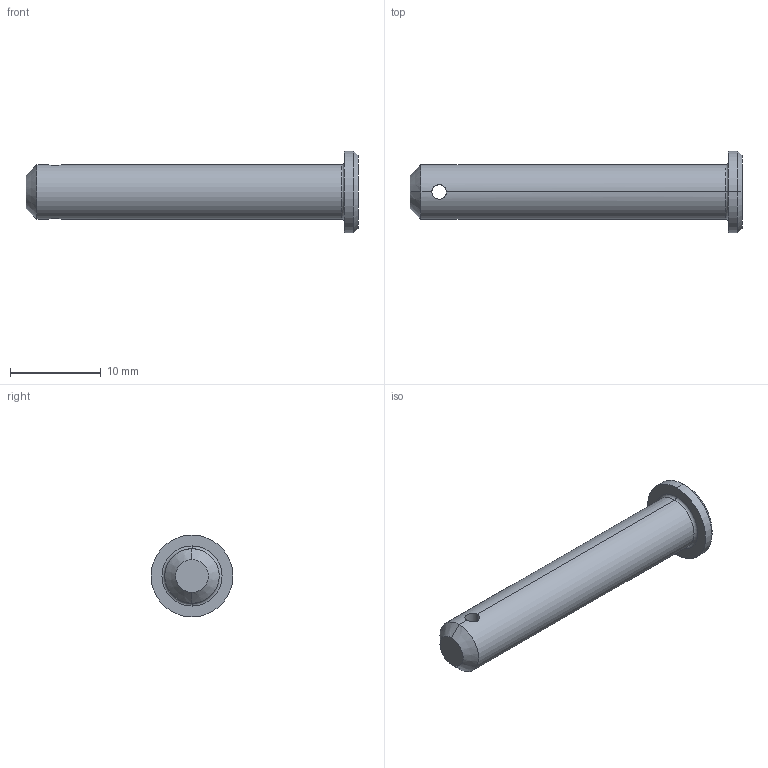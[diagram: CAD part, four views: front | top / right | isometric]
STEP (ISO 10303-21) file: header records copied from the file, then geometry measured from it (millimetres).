
FILE_DESCRIPTION (( 'STEP AP203' ), '1' );
FILE_NAME ('Wiberger-sms2360_6x35.step', '2012-10-09T08:58:28', ( 'Magnus' ), ( 'Wiberger' ), 'SwSTEP 2.0', 'SolidWorks 2011', '' );
FILE_SCHEMA (( 'CONFIG_CONTROL_DESIGN' ));
Length unit declared in the file: millimetre
Products named in the file (1): Wiberger-sms2360_6x35
Bounding box: 36.5 x 9 x 9 mm (x, y, z)
Volume: 1058.3 mm3; surface area: 828.8 mm2
Topology: 1 solids, 1 shells, 15 faces, 32 edges, 18 vertices
Faces by surface type: cylinder 6, cone 4, plane 3, torus 2
Entity records: 539 total; most frequent: CARTESIAN_POINT 130, DIRECTION 76, ORIENTED_EDGE 64, EDGE_CURVE 32, AXIS2_PLACEMENT_3D 32, VERTEX_POINT 18, EDGE_LOOP 16, CIRCLE 16
